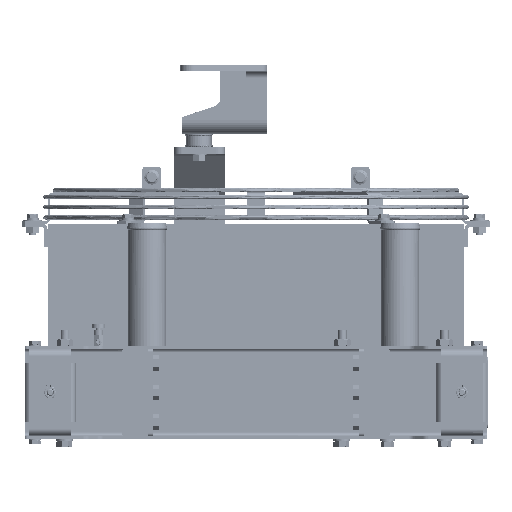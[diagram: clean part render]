
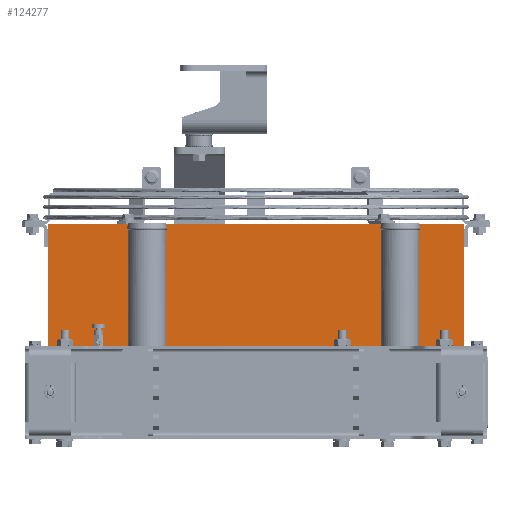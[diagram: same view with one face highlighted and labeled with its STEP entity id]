
A CAD part, front view. The second image highlights one B-rep face of the part: STEP entity #124277.
In plain terms, the highlighted planar face has unit normal (0, -1, 0).
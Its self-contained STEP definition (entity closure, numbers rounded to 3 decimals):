
#123447=CARTESIAN_POINT('Vertex',(1.,-560.,231.)) ;
#123450=CARTESIAN_POINT('Line Origine',(246.,-560.,231.)) ;
#123454=CARTESIAN_POINT('Vertex',(491.,-560.,231.)) ;
#124205=CARTESIAN_POINT('Vertex',(1.,-560.,83.)) ;
#124208=CARTESIAN_POINT('Line Origine',(1.,-560.,157.)) ;
#124254=CARTESIAN_POINT('Axis2P3D Location',(1.,-560.,231.)) ;
#124259=CARTESIAN_POINT('Line Origine',(491.,-560.,157.)) ;
#124263=CARTESIAN_POINT('Vertex',(491.,-560.,83.)) ;
#124266=CARTESIAN_POINT('Line Origine',(246.,-560.,83.)) ;
#123451=DIRECTION('Vector Direction',(-1.,0.,0.)) ;
#124209=DIRECTION('Vector Direction',(0.,0.,-1.)) ;
#124255=DIRECTION('Axis2P3D Direction',(0.,1.,0.)) ;
#124256=DIRECTION('Axis2P3D XDirection',(-1.,0.,0.)) ;
#124260=DIRECTION('Vector Direction',(0.,0.,1.)) ;
#124267=DIRECTION('Vector Direction',(-1.,0.,0.)) ;
#124257=AXIS2_PLACEMENT_3D('Plane Axis2P3D',#124254,#124255,#124256) ;
#124272=ORIENTED_EDGE('',*,*,#124265,.T.) ;
#124273=ORIENTED_EDGE('',*,*,#123456,.T.) ;
#124274=ORIENTED_EDGE('',*,*,#124212,.T.) ;
#124275=ORIENTED_EDGE('',*,*,#124270,.F.) ;
#123452=VECTOR('Line Direction',#123451,1.) ;
#124210=VECTOR('Line Direction',#124209,1.) ;
#124261=VECTOR('Line Direction',#124260,1.) ;
#124268=VECTOR('Line Direction',#124267,1.) ;
#124277=ADVANCED_FACE('\X2\BD88B7ECC628\X0\ \X2\D53CCC98\X0\1',(#124276),#124258,.F.) ;
#123456=EDGE_CURVE('',#123455,#123448,#123453,.T.) ;
#124212=EDGE_CURVE('',#123448,#124206,#124211,.T.) ;
#124265=EDGE_CURVE('',#124264,#123455,#124262,.T.) ;
#124270=EDGE_CURVE('',#124264,#124206,#124269,.T.) ;
#124271=EDGE_LOOP('',(#124272,#124273,#124274,#124275)) ;
#124276=FACE_OUTER_BOUND('',#124271,.T.) ;
#123453=LINE('Line',#123450,#123452) ;
#124211=LINE('Line',#124208,#124210) ;
#124262=LINE('Line',#124259,#124261) ;
#124269=LINE('Line',#124266,#124268) ;
#124258=PLANE('',#124257) ;
#123448=VERTEX_POINT('',#123447) ;
#123455=VERTEX_POINT('',#123454) ;
#124206=VERTEX_POINT('',#124205) ;
#124264=VERTEX_POINT('',#124263) ;
